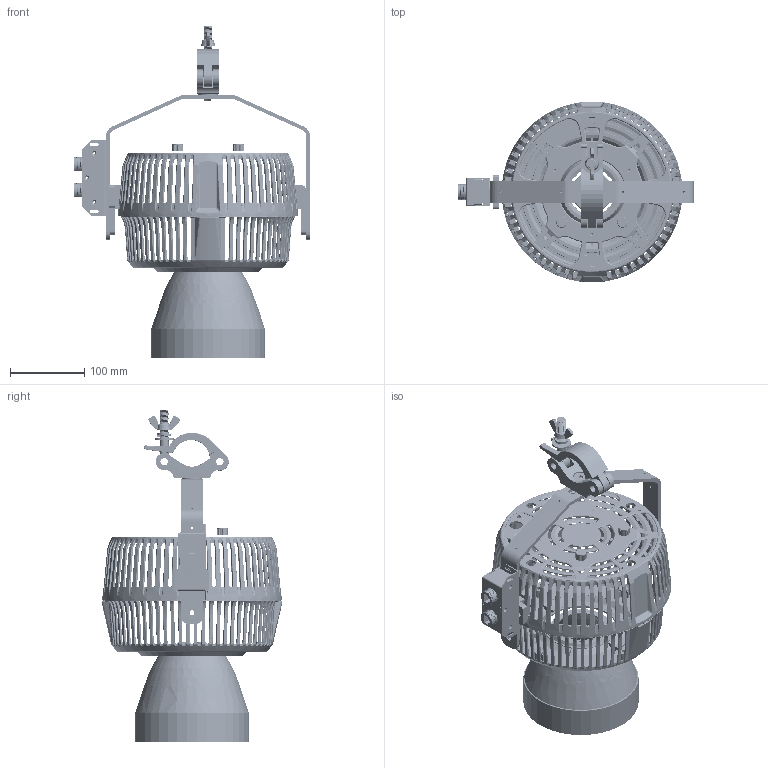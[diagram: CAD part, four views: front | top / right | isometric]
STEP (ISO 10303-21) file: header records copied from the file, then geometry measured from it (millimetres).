
FILE_DESCRIPTION (( 'STEP AP214' ), '1' );
FILE_NAME ('W2KB-CLP-Fixture.STEP', '2024-02-29T20:02:09', ( '' ), ( '' ), 'SwSTEP 2.0', 'SolidWorks 2022', '' );
FILE_SCHEMA (( 'AUTOMOTIVE_DESIGN' ));
Length unit declared in the file: millimetre
Products named in the file (20): 5022496_X2_Yoke Adapter___^Top Assembly W2K_20220609_15_W2KB-CLP.STEP; W2KB-CLP-Fixture; REFLECTOR-50___^Top Assembly W2K_20220609_15_W2KB-CLP.STEP; 5022644_A1_REFLECTOR-50 FOR W2K___^REFLECTOR-50____Top Assembly W2K_20220609_15_W2KB-CLP.STEP; 5021736-006_A2_Aluminum Hook, M12_Original^CLP+TOKE____Top Assembly W2K_20220609_15_W2KB-CLP.STEP; 5022531_X1_BOTTOM HOUSING FOR W2K&A2K^Top Assembly W2K_20220609_15_W2KB-CLP.STEP; RJ45_WaterProof_3352I02029-PCB Housing___^RJ45_WaterProof_3352I02029____DMX Signal Cable_X2____Top Assembly W2K_20220609_15_W2KB-CLP.STEP; 5022495-XXX_A3_Yoke, 275x30x195mm___^CLP+TOKE____Top Assembly W2K_20220609_15_W2KB-CLP.STEP; 5022499_X2_Single Arm Pivot Base___^Top Assembly W2K_20220609_15_W2KB-CLP.STEP; SCREW, M8 L8 CAP HEAD, HEX SOCKET, SUS, BLACK___^Top Assembly W2K_20220609_15_W2KB-CLP.STEP; 5021926_A1_KNOB, 18T, OD=14.9, ID=6, L=10MM___^Top Assembly W2K_20220609_15_W2KB-CLP.STEP; SCREW, PAN HEAD SUS-304, M4.0 x L5mm___^REFLECTOR-50____Top Assembly W2K_20220609_15_W2KB-CLP.STEP; BOTTOM COVER_X2___^DMX Signal Cable_X2____Top Assembly W2K_20220609_15_W2KB-CLP.STEP; RJ45_WaterProof_3352I02029___^DMX Signal Cable_X2____Top Assembly W2K_20220609_15_W2KB-CLP.STEP; 5022530-2022-01-10___^Top Assembly W2K_20220609_15_W2KB-CLP.STEP; WASHER ID4.2,OD10,T=1___^REFLECTOR-50____Top Assembly W2K_20220609_15_W2KB-CLP.STEP; TOP COVER_X2___^DMX Signal Cable_X2____Top Assembly W2K_20220609_15_W2KB-CLP.STEP; CLP+TOKE___^Top Assembly W2K_20220609_15_W2KB-CLP.STEP; DMX Signal Cable_X2___^Top Assembly W2K_20220609_15_W2KB-CLP.STEP; Top Assembly W2K_20220609_15^W2KB-CLP.STEP
Assembly tree (28 placements, depth 5):
  W2KB-CLP-Fixture
    Top Assembly W2K_20220609_15^W2KB-CLP.STEP
      DMX Signal Cable_X2___^Top Assembly W2K_20220609_15_W2KB-CLP.STEP
        RJ45_WaterProof_3352I02029___^DMX Signal Cable_X2____Top Assembly W2K_20220609_15_W2KB-CLP.STEP  x2
          RJ45_WaterProof_3352I02029-PCB Housing___^RJ45_WaterProof_3352I02029____DMX Signal Cable_X2____Top Assembly W2K_20220609_15_W2KB-CLP.STEP
        BOTTOM COVER_X2___^DMX Signal Cable_X2____Top Assembly W2K_20220609_15_W2KB-CLP.STEP
        TOP COVER_X2___^DMX Signal Cable_X2____Top Assembly W2K_20220609_15_W2KB-CLP.STEP
      CLP+TOKE___^Top Assembly W2K_20220609_15_W2KB-CLP.STEP
        5021736-006_A2_Aluminum Hook, M12_Original^CLP+TOKE____Top Assembly W2K_20220609_15_W2KB-CLP.STEP
        5022495-XXX_A3_Yoke, 275x30x195mm___^CLP+TOKE____Top Assembly W2K_20220609_15_W2KB-CLP.STEP
      REFLECTOR-50___^Top Assembly W2K_20220609_15_W2KB-CLP.STEP
        5022644_A1_REFLECTOR-50 FOR W2K___^REFLECTOR-50____Top Assembly W2K_20220609_15_W2KB-CLP.STEP
        SCREW, PAN HEAD SUS-304, M4.0 x L5mm___^REFLECTOR-50____Top Assembly W2K_20220609_15_W2KB-CLP.STEP  x4
        WASHER ID4.2,OD10,T=1___^REFLECTOR-50____Top Assembly W2K_20220609_15_W2KB-CLP.STEP  x4
      5022531_X1_BOTTOM HOUSING FOR W2K&A2K^Top Assembly W2K_20220609_15_W2KB-CLP.STEP
      5022496_X2_Yoke Adapter___^Top Assembly W2K_20220609_15_W2KB-CLP.STEP  x2
      5022530-2022-01-10___^Top Assembly W2K_20220609_15_W2KB-CLP.STEP
      5021926_A1_KNOB, 18T, OD=14.9, ID=6, L=10MM___^Top Assembly W2K_20220609_15_W2KB-CLP.STEP  x2
      SCREW, M8 L8 CAP HEAD, HEX SOCKET, SUS, BLACK___^Top Assembly W2K_20220609_15_W2KB-CLP.STEP
      5022499_X2_Single Arm Pivot Base___^Top Assembly W2K_20220609_15_W2KB-CLP.STEP
Bounding box: 318.15 x 243.79 x 447.36 mm (x, y, z)
Volume: 638625.8 mm3; surface area: 569809.4 mm2
Topology: 30 solids, 30 shells, 6473 faces, 17131 edges, 10521 vertices
Faces by surface type: bspline 2427, plane 1593, cylinder 1467, torus 505, cone 463, sphere 18
Entity records: 369106 total; most frequent: CARTESIAN_POINT 245655, ORIENTED_EDGE 30276, DIRECTION 20068, EDGE_CURVE 15138, VERTEX_POINT 9215, AXIS2_PLACEMENT_3D 8377, B_SPLINE_CURVE_WITH_KNOTS 6586, EDGE_LOOP 6055
